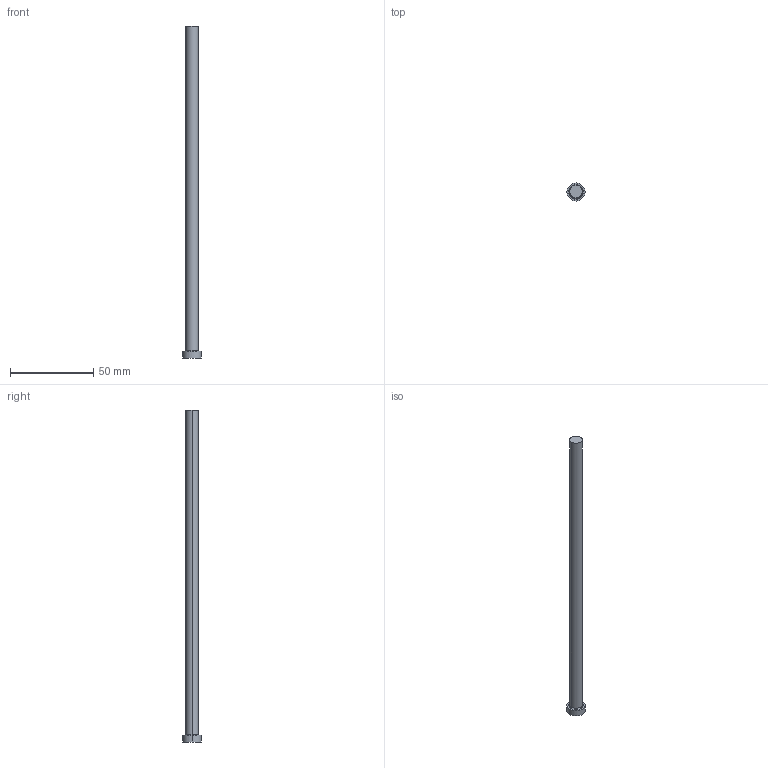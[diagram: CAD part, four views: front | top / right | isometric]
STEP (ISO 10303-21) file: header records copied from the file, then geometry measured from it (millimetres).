
FILE_DESCRIPTION (( 'STEP AP214' ), '1' );
FILE_NAME ('EPHE-B7.6-200.step', '2024-04-11T21:30:48', ( '' ), ( '' ), 'SwSTEP 2.0', 'SolidWorks 2017', '' );
FILE_SCHEMA (( 'AUTOMOTIVE_DESIGN' ));
Length unit declared in the file: millimetre
Products named in the file (1): EPHE-B7.6-200
Bounding box: 11 x 11 x 200 mm (x, y, z)
Volume: 9272.9 mm3; surface area: 5003 mm2
Topology: 1 solids, 1 shells, 9 faces, 16 edges, 10 vertices
Faces by surface type: cylinder 4, plane 3, torus 2
Entity records: 260 total; most frequent: DIRECTION 48, CARTESIAN_POINT 36, ORIENTED_EDGE 32, AXIS2_PLACEMENT_3D 22, EDGE_CURVE 16, CIRCLE 12, VERTEX_POINT 10, EDGE_LOOP 10
